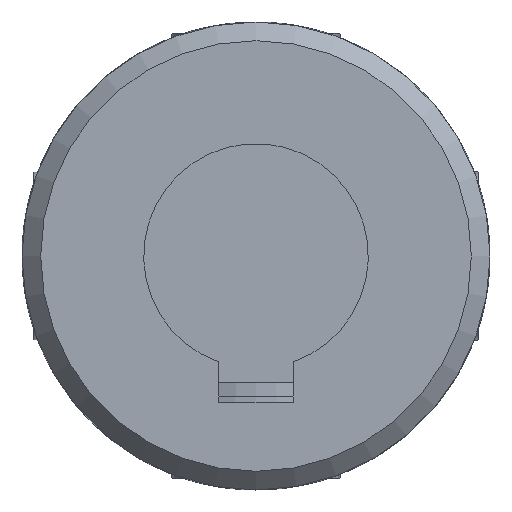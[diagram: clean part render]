
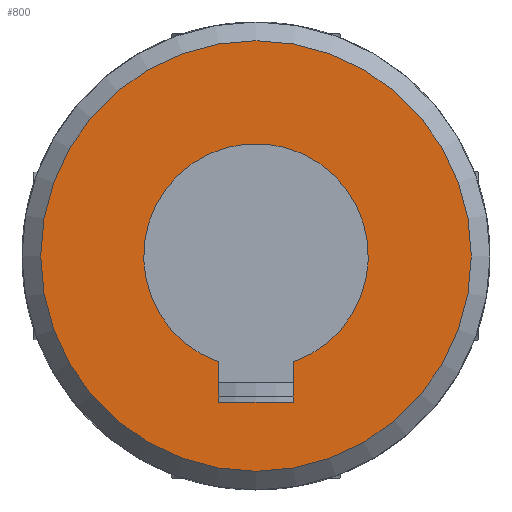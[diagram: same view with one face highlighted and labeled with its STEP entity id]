
A CAD part, front view. The second image highlights one B-rep face of the part: STEP entity #800.
In plain terms, the highlighted planar face has unit normal (0, -1, 0).
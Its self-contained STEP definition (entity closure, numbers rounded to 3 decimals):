
#91=LINE('',#1224,#124);
#96=LINE('',#1241,#129);
#97=LINE('',#1254,#130);
#124=VECTOR('',#1000,2.143);
#129=VECTOR('',#1011,2.143);
#130=VECTOR('',#1014,4.);
#156=PLANE('',#871);
#181=FACE_BOUND('',#273,.T.);
#208=FACE_OUTER_BOUND('',#272,.T.);
#272=EDGE_LOOP('',(#629));
#273=EDGE_LOOP('',(#630,#631,#632,#633));
#318=CIRCLE('',#859,6.);
#323=CIRCLE('',#869,11.5);
#366=VERTEX_POINT('',#1213);
#367=VERTEX_POINT('',#1215);
#369=VERTEX_POINT('',#1223);
#375=VERTEX_POINT('',#1239);
#377=VERTEX_POINT('',#1260);
#449=EDGE_CURVE('',#367,#366,#318,.T.);
#452=EDGE_CURVE('',#369,#367,#91,.T.);
#460=EDGE_CURVE('',#366,#375,#96,.T.);
#462=EDGE_CURVE('',#375,#369,#97,.T.);
#465=EDGE_CURVE('',#377,#377,#323,.T.);
#629=ORIENTED_EDGE('',*,*,#465,.F.);
#630=ORIENTED_EDGE('',*,*,#460,.T.);
#631=ORIENTED_EDGE('',*,*,#462,.T.);
#632=ORIENTED_EDGE('',*,*,#452,.T.);
#633=ORIENTED_EDGE('',*,*,#449,.T.);
#800=ADVANCED_FACE('',(#208,#181),#156,.F.);
#859=AXIS2_PLACEMENT_3D('',#1216,#995,#996);
#869=AXIS2_PLACEMENT_3D('',#1261,#1023,#1024);
#871=AXIS2_PLACEMENT_3D('',#1477,#1031,#1032);
#995=DIRECTION('center_axis',(0.,1.,0.));
#996=DIRECTION('ref_axis',(0.333,0.,-0.943));
#1000=DIRECTION('',(0.,0.,1.));
#1011=DIRECTION('',(0.,0.,-1.));
#1014=DIRECTION('',(-1.,0.,0.));
#1023=DIRECTION('center_axis',(0.,1.,0.));
#1024=DIRECTION('ref_axis',(1.,0.,0.));
#1031=DIRECTION('center_axis',(0.,1.,0.));
#1032=DIRECTION('ref_axis',(0.,0.,1.));
#1213=CARTESIAN_POINT('',(2.,-34.5,-5.657));
#1215=CARTESIAN_POINT('',(-2.,-34.5,-5.657));
#1216=CARTESIAN_POINT('Origin',(0.,-34.5,0.));
#1223=CARTESIAN_POINT('',(-2.,-34.5,-7.8));
#1224=CARTESIAN_POINT('',(-2.,-34.5,-3.9));
#1239=CARTESIAN_POINT('',(2.,-34.5,-7.8));
#1241=CARTESIAN_POINT('',(2.,-34.5,-2.828));
#1254=CARTESIAN_POINT('',(1.,-34.5,-7.8));
#1260=CARTESIAN_POINT('',(-11.5,-34.5,0.));
#1261=CARTESIAN_POINT('Origin',(0.,-34.5,0.));
#1477=CARTESIAN_POINT('Origin',(0.,-34.5,0.));
